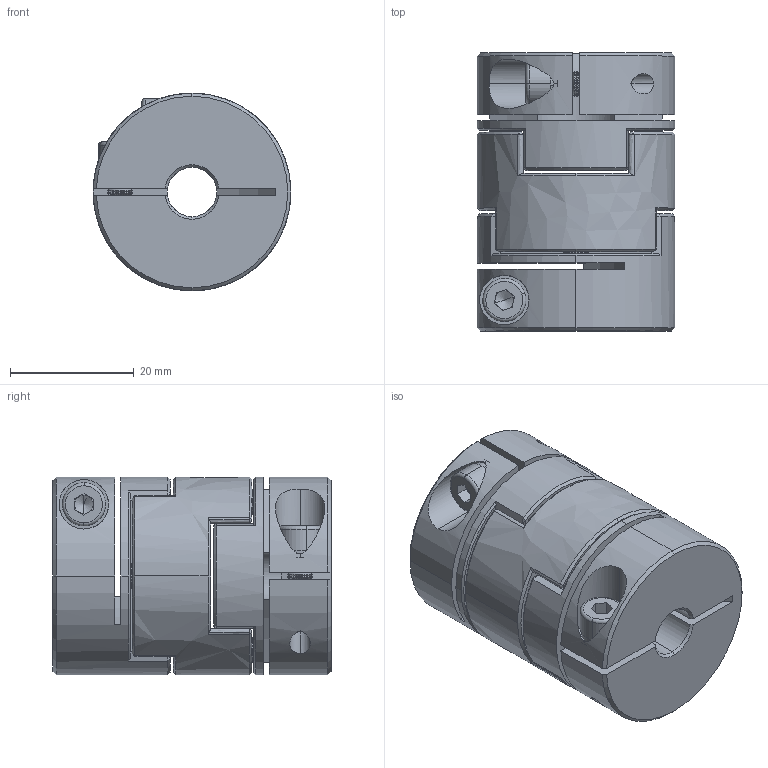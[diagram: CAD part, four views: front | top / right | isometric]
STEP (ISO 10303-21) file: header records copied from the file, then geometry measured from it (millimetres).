
FILE_DESCRIPTION (( 'STEP AP203' ), '1' );
FILE_NAME ('LZ-B-D32L45-8-14.STEP', '2021-10-29T06:39:50', ( '' ), ( '' ), 'SwSTEP 2.0', 'SolidWorks 2018', '' );
FILE_SCHEMA (( 'CONFIG_CONTROL_DESIGN' ));
Length unit declared in the file: millimetre
Products named in the file (1): LZ-B-D32L45-8-14
Bounding box: 32 x 45 x 32 mm (x, y, z)
Volume: 28501.8 mm3; surface area: 13121.3 mm2
Topology: 1 solids, 1 shells, 356 faces, 856 edges, 498 vertices
Faces by surface type: cone 118, cylinder 92, plane 84, bspline 54, torus 8
Entity records: 11145 total; most frequent: CARTESIAN_POINT 3197, ORIENTED_EDGE 1704, DIRECTION 1578, EDGE_CURVE 852, AXIS2_PLACEMENT_3D 619, VERTEX_POINT 498, EDGE_LOOP 382, ADVANCED_FACE 356
